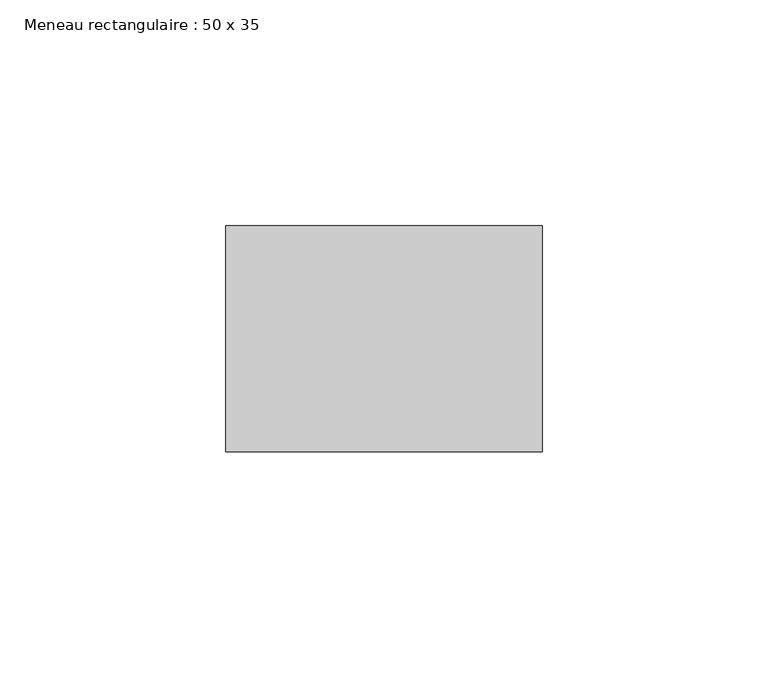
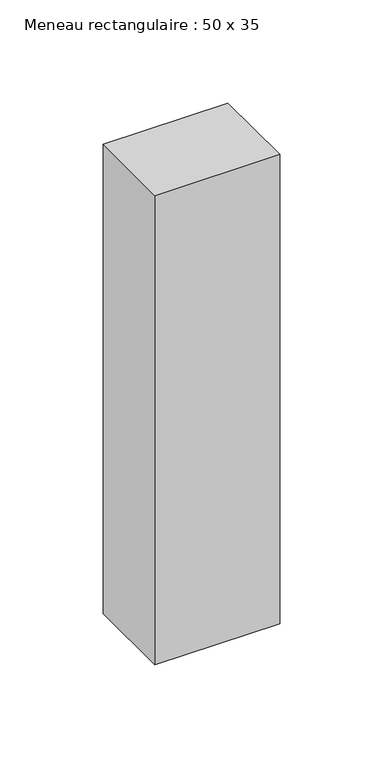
"""IFC4 building model written with IfcOpenShell, lengths in millimetres: member geometry, Meneau rectangulaire : 50 x 35."""

from ifc_helpers import new_model, si_unit, frame, origin, place, context, project, spatial, polyline, outline, extrude, source, transform, mapped, element, save


def meneau_rectangulaire_50_x_35_db9bc411(model_context):
    return source(origin(), model_context, "Body", "SweptSolid", [
        extrude(outline(polyline([(0.0, 0.0), (0.0, -50.0), (-70.0, -50.0), (-70.0, 0.0), (0.0, 0.0)])), frame((0.0, 0.0, -278.0), z_axis=(0.0, 0.0, 1.0), x_axis=(1.0, 0.0, 0.0)), (0.0, 0.0, 1.0), 278.0),
    ])


if __name__ == "__main__":
    model = new_model("IFC4")
    model_context = context("Model", 3, world=origin())
    ifc_project = project(units=[si_unit("LENGTHUNIT", "METRE", prefix="MILLI")], contexts=[model_context])
    site = spatial("IfcSite", under=ifc_project)
    building = spatial("IfcBuilding", under=site)
    placement = place(None, origin())
    meneau_rectangulaire_50_x_35_shape = meneau_rectangulaire_50_x_35_db9bc411(model_context)
    element("IfcMember", 1, ObjectType="Meneau rectangulaire : 50 x 35", at=placement, inside=building, context=model_context, shape_type="MappedRepresentation", body=[
        mapped(meneau_rectangulaire_50_x_35_shape, transform((0.0, 0.0, 0.0), x_axis=(1.0, 0.0, 0.0), y_axis=(0.0, 1.0, 0.0), z_axis=(0.0, 0.0, 1.0))),
    ])
    save(model, "model.ifc")
